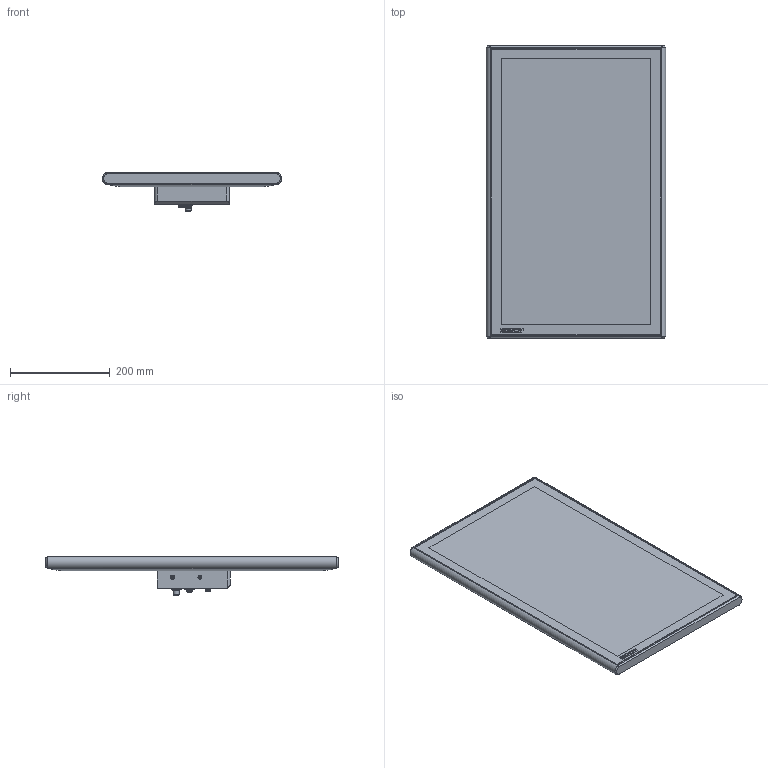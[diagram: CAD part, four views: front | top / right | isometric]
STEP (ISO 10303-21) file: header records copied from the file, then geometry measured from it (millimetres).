
FILE_DESCRIPTION(/* description */ ('-'),/* implementation_level */ '2;1');
FILE_NAME(/* name */ '0000013965.stp',/* time_stamp */ '2024-03-18T14:31:14+01:00',/* author */ ('-'),/* organization */ ('(c) Beckhoff Automation GmbH & Co. KG, 33415 Verl'),/* preprocessor_version */ 'ST-DEVELOPER v20',/* originating_system */ 'Autodesk Inventor 2024',/* authorisation */ '-');
FILE_SCHEMA (('AUTOMOTIVE_DESIGN { 1 0 10303 214 3 1 1 }'));
Length unit declared in the file: millimetre
Products named in the file (1): 0000013965_CP3924-0010_M575_M338
Bounding box: 359.33 x 585 x 77 mm (x, y, z)
Volume: 6373302.5 mm3; surface area: 484991 mm2
Topology: 1 solids, 1 shells, 1191 faces, 3065 edges, 2011 vertices
Faces by surface type: plane 613, cylinder 286, bspline 237, cone 33, torus 22
Full cylindrical faces by diameter (mm): 1 x4, 1.2 x4, 3 x1, 3.8 x1, 4 x1, 4.917 x4, 5.5 x4, 5.7 x2, 7 x2, 8 x2, 8.3 x1, 8.5 x4, 8.8 x4, 9 x4, 10 x1, 10.5 x1, 12 x2, 15.3 x1, 21 x1, 24 x1, 24.5 x1
Entity records: 43654 total; most frequent: CARTESIAN_POINT 14230, ORIENTED_EDGE 6124, DIRECTION 5209, EDGE_CURVE 3062, VERTEX_POINT 2011, LINE 1861, VECTOR 1861, AXIS2_PLACEMENT_3D 1674
